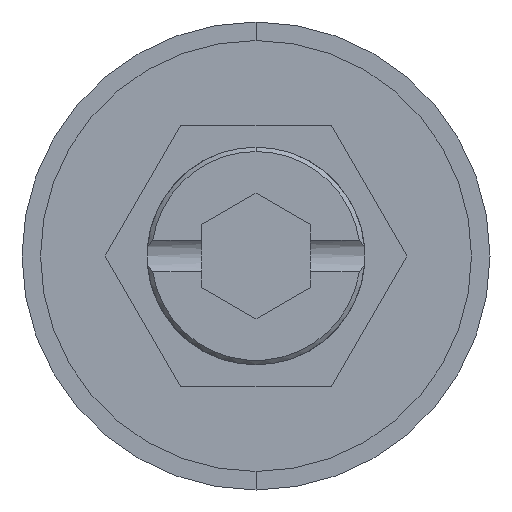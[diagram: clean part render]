
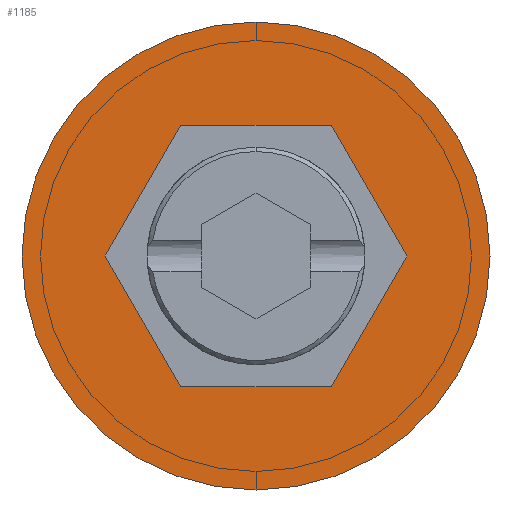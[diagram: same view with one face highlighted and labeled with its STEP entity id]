
A CAD part, front view. The second image highlights one B-rep face of the part: STEP entity #1185.
In plain terms, the highlighted planar face has unit normal (0, -1, 0).
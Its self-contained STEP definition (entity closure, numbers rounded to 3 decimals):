
#29 = EDGE_CURVE ( 'NONE', #1656, #735, #1428, .T. ) ;
#36 = DIRECTION ( 'NONE',  ( -1., 0., 0. ) ) ;
#42 = CARTESIAN_POINT ( 'NONE',  ( 3.464, 0., 6. ) ) ;
#89 = LINE ( 'NONE', #42, #124 ) ;
#101 = CARTESIAN_POINT ( 'NONE',  ( 3.464, 0., -6. ) ) ;
#124 = VECTOR ( 'NONE', #36, 1000. ) ;
#172 = CARTESIAN_POINT ( 'NONE',  ( 6.928, 0., 0. ) ) ;
#187 = VECTOR ( 'NONE', #1331, 1000. ) ;
#192 = DIRECTION ( 'NONE',  ( -0.5, 0., 0.866 ) ) ;
#236 = LINE ( 'NONE', #1563, #187 ) ;
#297 = VECTOR ( 'NONE', #2117, 1000. ) ;
#299 = CARTESIAN_POINT ( 'NONE',  ( 0., 0., -10.75 ) ) ;
#321 = LINE ( 'NONE', #679, #297 ) ;
#340 = VERTEX_POINT ( 'NONE', #1184 ) ;
#344 = CARTESIAN_POINT ( 'NONE',  ( 6.928, 0., 0. ) ) ;
#362 = CIRCLE ( 'NONE', #382, 10.75 ) ;
#382 = AXIS2_PLACEMENT_3D ( 'NONE', #431, #510, #511 ) ;
#431 = CARTESIAN_POINT ( 'NONE',  ( 0., 0., 0. ) ) ;
#470 = VECTOR ( 'NONE', #2213, 1000. ) ;
#486 = LINE ( 'NONE', #2209, #470 ) ;
#492 = CARTESIAN_POINT ( 'NONE',  ( 3.464, 0., -6. ) ) ;
#510 = DIRECTION ( 'NONE',  ( 0., -1., 0. ) ) ;
#511 = DIRECTION ( 'NONE',  ( 0., 0., -1. ) ) ;
#541 = DIRECTION ( 'NONE',  ( 0.5, 0., 0.866 ) ) ;
#668 = CIRCLE ( 'NONE', #828, 10.75 ) ;
#679 = CARTESIAN_POINT ( 'NONE',  ( -6.928, 0., 0. ) ) ;
#687 = VERTEX_POINT ( 'NONE', #2189 ) ;
#691 = EDGE_LOOP ( 'NONE', ( #2063, #1697, #2003, #2034, #2041, #1456 ) ) ;
#721 = FACE_BOUND ( 'NONE', #691, .T. ) ;
#725 = FACE_OUTER_BOUND ( 'NONE', #798, .T. ) ;
#735 = VERTEX_POINT ( 'NONE', #344 ) ;
#798 = EDGE_LOOP ( 'NONE', ( #1618, #1643 ) ) ;
#828 = AXIS2_PLACEMENT_3D ( 'NONE', #1676, #1679, #1682 ) ;
#958 = AXIS2_PLACEMENT_3D ( 'NONE', #1555, #1551, #1567 ) ;
#984 = VERTEX_POINT ( 'NONE', #1493 ) ;
#991 = VERTEX_POINT ( 'NONE', #1494 ) ;
#1175 = CARTESIAN_POINT ( 'NONE',  ( 0., 0., 10.75 ) ) ;
#1184 = CARTESIAN_POINT ( 'NONE',  ( 3.464, 0., 6. ) ) ;
#1185 = ADVANCED_FACE ( 'NONE', ( #721, #725 ), #1564, .T. ) ;
#1331 = DIRECTION ( 'NONE',  ( -0.5, 0., -0.866 ) ) ;
#1362 = EDGE_CURVE ( 'NONE', #1861, #1704, #668, .T. ) ;
#1412 = VECTOR ( 'NONE', #541, 1000. ) ;
#1428 = LINE ( 'NONE', #492, #1412 ) ;
#1456 = ORIENTED_EDGE ( 'NONE', *, *, #29, .F. ) ;
#1493 = CARTESIAN_POINT ( 'NONE',  ( -3.464, 0., -6. ) ) ;
#1494 = CARTESIAN_POINT ( 'NONE',  ( -6.928, 0., 0. ) ) ;
#1551 = DIRECTION ( 'NONE',  ( 0., -1., 0. ) ) ;
#1555 = CARTESIAN_POINT ( 'NONE',  ( 0., 0., 0. ) ) ;
#1563 = CARTESIAN_POINT ( 'NONE',  ( -3.464, 0., 6. ) ) ;
#1564 = PLANE ( 'NONE',  #958 ) ;
#1567 = DIRECTION ( 'NONE',  ( 0., 0., -1. ) ) ;
#1618 = ORIENTED_EDGE ( 'NONE', *, *, #1732, .T. ) ;
#1622 = EDGE_CURVE ( 'NONE', #984, #1656, #486, .T. ) ;
#1643 = ORIENTED_EDGE ( 'NONE', *, *, #1362, .T. ) ;
#1656 = VERTEX_POINT ( 'NONE', #101 ) ;
#1676 = CARTESIAN_POINT ( 'NONE',  ( 0., 0., 0. ) ) ;
#1679 = DIRECTION ( 'NONE',  ( 0., -1., 0. ) ) ;
#1682 = DIRECTION ( 'NONE',  ( 0., 0., -1. ) ) ;
#1697 = ORIENTED_EDGE ( 'NONE', *, *, #1794, .F. ) ;
#1704 = VERTEX_POINT ( 'NONE', #299 ) ;
#1732 = EDGE_CURVE ( 'NONE', #1704, #1861, #362, .T. ) ;
#1794 = EDGE_CURVE ( 'NONE', #991, #984, #321, .T. ) ;
#1861 = VERTEX_POINT ( 'NONE', #1175 ) ;
#1899 = EDGE_CURVE ( 'NONE', #687, #991, #236, .T. ) ;
#2003 = ORIENTED_EDGE ( 'NONE', *, *, #1899, .F. ) ;
#2027 = EDGE_CURVE ( 'NONE', #340, #687, #89, .T. ) ;
#2034 = ORIENTED_EDGE ( 'NONE', *, *, #2027, .F. ) ;
#2041 = ORIENTED_EDGE ( 'NONE', *, *, #2091, .F. ) ;
#2063 = ORIENTED_EDGE ( 'NONE', *, *, #1622, .F. ) ;
#2091 = EDGE_CURVE ( 'NONE', #735, #340, #2241, .T. ) ;
#2117 = DIRECTION ( 'NONE',  ( 0.5, 0., -0.866 ) ) ;
#2189 = CARTESIAN_POINT ( 'NONE',  ( -3.464, 0., 6. ) ) ;
#2209 = CARTESIAN_POINT ( 'NONE',  ( -3.464, 0., -6. ) ) ;
#2213 = DIRECTION ( 'NONE',  ( 1., 0., 0. ) ) ;
#2240 = VECTOR ( 'NONE', #192, 1000. ) ;
#2241 = LINE ( 'NONE', #172, #2240 ) ;
